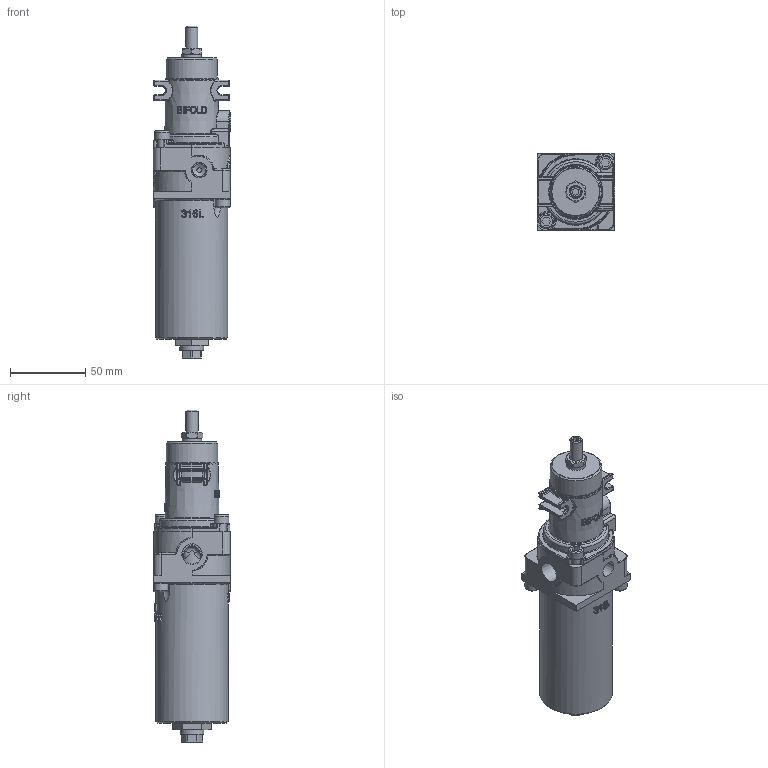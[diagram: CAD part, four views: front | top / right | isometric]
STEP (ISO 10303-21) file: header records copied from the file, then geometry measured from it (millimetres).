
FILE_DESCRIPTION(/* description */ ('Unknown'),/* implementation_level */ '2;1');
FILE_NAME(/* name */ 'SH06-FR-SR-AD-X-X',/* time_stamp */ '2022-03-14T03:59:07+00:00',/* author */ ('Unknown'),/* organization */ ('Unknown'),/* preprocessor_version */ 'ST-DEVELOPER v16.7',/* originating_system */ 'Solid Edge',/* authorisation */ 'Unknown');
FILE_SCHEMA (('AUTOMOTIVE_DESIGN {1 0 10303 214 3 1 1}'));
Products named in the file (2): sh06-fr-sr-ad-x-x; sh06-fr-xr-ad
Assembly tree (1 placements, depth 2):
  sh06-fr-sr-ad-x-x
    sh06-fr-xr-ad
Bounding box: 51.2 x 50.8 x 220 mm (x, y, z)
Volume: 188528.2 mm3; surface area: 78438.5 mm2
Topology: 2 solids, 8 shells, 1184 faces, 2862 edges, 1687 vertices
Faces by surface type: plane 343, cylinder 310, bspline 255, torus 127, cone 85, sphere 64
Full cylindrical faces by diameter (mm): 1.7 x1, 2.8 x1, 3.18 x2, 3.9 x1, 4.75 x1, 5 x4, 6 x4, 6.5 x2, 7.75 x1, 8 x3, 8.433 x2, 8.7 x1, 9.8 x4, 10 x1, 10.5 x1, 11.125 x1, 12.3 x1, 13 x1, 15.875 x1, 16 x2, 18 x1, 19 x1, 21 x1, 24 x1, 34 x1, 35 x1, 37 x1, 38 x1, 42 x1, 44.5 x1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
Entity records: 50153 total; most frequent: CARTESIAN_POINT 17340, ORIENTED_EDGE 5200, DIRECTION 4804, EDGE_CURVE 2600, AXIS2_PLACEMENT_3D 1953, VERTEX_POINT 1638, FACE_BOUND 1408, EDGE_LOOP 1402
